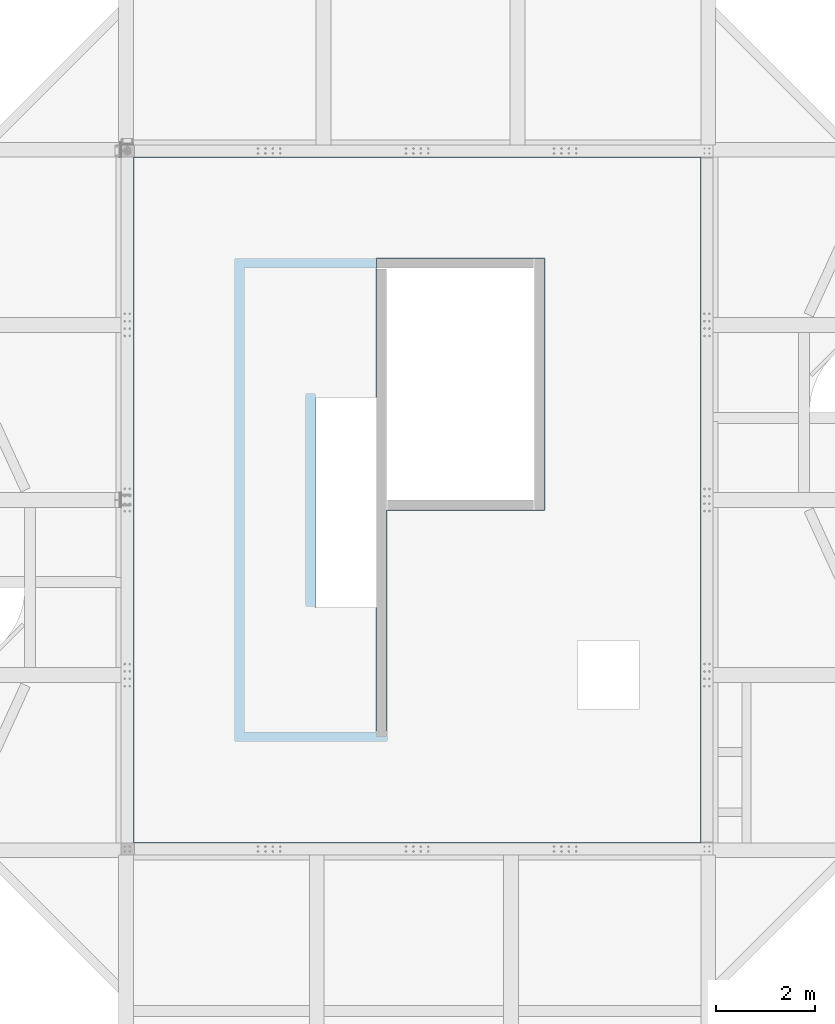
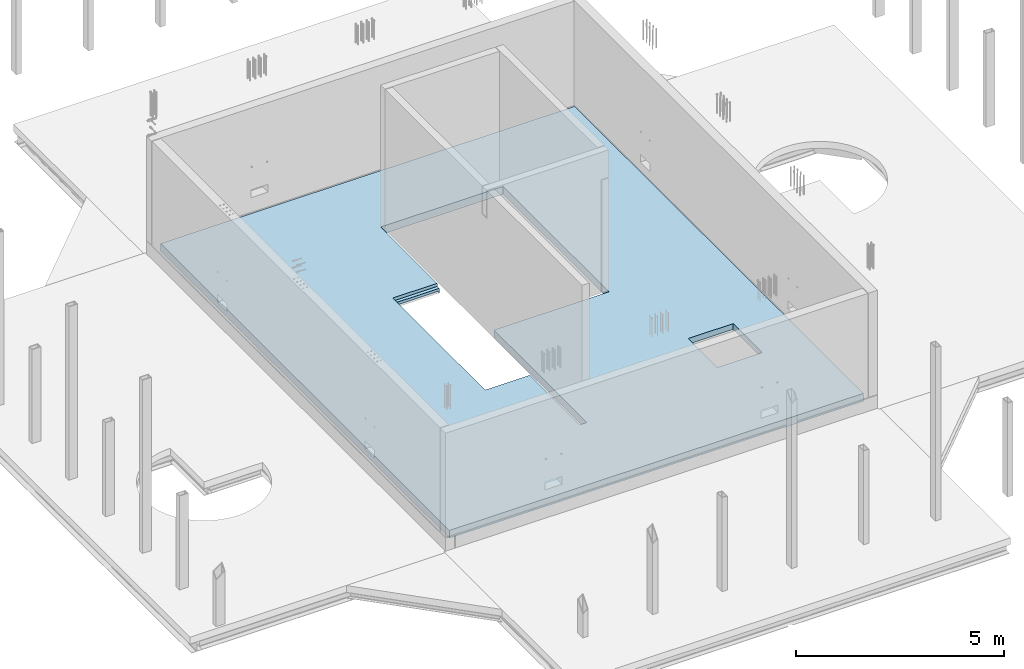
# One storey, part 12 of 16: 1 slab.
"""IFC2X3 building model written with IfcOpenShell, lengths in millimetres."""

from ifc_helpers import new_model, entity, si_unit, converted_unit, derived_unit, direction, frame, origin, place, context, subcontext, project, spatial, faceted_brep, element, save


model = new_model("IFC2X3")

# Units and contexts
model_context = context("Model", 3, precision=0.01, world=origin(), true_north=direction((6.12303176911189e-17, 1.0)))
body_context = subcontext(model_context, "Body", "Model", "MODEL_VIEW")
ifc_project = project(units=[si_unit("LENGTHUNIT", "METRE", prefix="MILLI"), si_unit("AREAUNIT", "SQUARE_METRE"), si_unit("VOLUMEUNIT", "CUBIC_METRE"), converted_unit("PLANEANGLEUNIT", "DEGREE", entity("IfcRatioMeasure", 0.0174532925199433), si_unit("PLANEANGLEUNIT", "RADIAN"), dimensions=[0, 0, 0, 0, 0, 0, 0]), si_unit("MASSUNIT", "GRAM", prefix="KILO"), derived_unit("MASSDENSITYUNIT", [(si_unit("MASSUNIT", "GRAM", prefix="KILO"), 1), (si_unit("LENGTHUNIT", "METRE"), -3)]), si_unit("TIMEUNIT", "SECOND"), si_unit("FREQUENCYUNIT", "HERTZ"), si_unit("THERMODYNAMICTEMPERATUREUNIT", "DEGREE_CELSIUS"), derived_unit("THERMALTRANSMITTANCEUNIT", [(si_unit("MASSUNIT", "GRAM", prefix="KILO"), 1), (si_unit("THERMODYNAMICTEMPERATUREUNIT", "KELVIN"), -1), (si_unit("TIMEUNIT", "SECOND"), -3)]), derived_unit("VOLUMETRICFLOWRATEUNIT", [(si_unit("LENGTHUNIT", "METRE"), 3), (si_unit("TIMEUNIT", "SECOND"), -1)]), si_unit("ELECTRICCURRENTUNIT", "AMPERE"), si_unit("ELECTRICVOLTAGEUNIT", "VOLT"), si_unit("POWERUNIT", "WATT"), si_unit("FORCEUNIT", "NEWTON", prefix="KILO"), si_unit("ILLUMINANCEUNIT", "LUX"), si_unit("LUMINOUSFLUXUNIT", "LUMEN"), si_unit("LUMINOUSINTENSITYUNIT", "CANDELA"), derived_unit("USERDEFINED", [(si_unit("MASSUNIT", "GRAM", prefix="KILO"), -1), (si_unit("LENGTHUNIT", "METRE"), -2), (si_unit("TIMEUNIT", "SECOND"), 3), (si_unit("LUMINOUSFLUXUNIT", "LUMEN"), 1)]), derived_unit("LINEARVELOCITYUNIT", [(si_unit("LENGTHUNIT", "METRE"), 1), (si_unit("TIMEUNIT", "SECOND"), -1)]), si_unit("PRESSUREUNIT", "PASCAL"), derived_unit("USERDEFINED", [(si_unit("LENGTHUNIT", "METRE"), -2), (si_unit("MASSUNIT", "GRAM", prefix="KILO"), 1), (si_unit("TIMEUNIT", "SECOND"), -2)])], contexts=[model_context])

# Site, building, storey
site_placement = place(None, origin())
site = spatial("IfcSite", under=ifc_project, at=site_placement, Name="Default", CompositionType="ELEMENT")
building_placement = place(site_placement, origin())
building = spatial("IfcBuilding", under=site, at=building_placement, Name="niet gebruiken", CompositionType="ELEMENT")
storey_placement = place(building_placement, frame((0.0, 0.0, 183150.0)))
storey = spatial("IfcBuildingStorey", under=building, at=storey_placement, Name="58 achtenvijftigste verdieping", CompositionType="ELEMENT", Elevation=183150.0)

# Slab
slab_placement = place(storey_placement, origin())
element("IfcSlab", 1, at=slab_placement, inside=storey, Name="Floor:NLRS_23.21_FL_vloer=230_gen", ObjectType="Floor:NLRS_23.21_FL_vloer=230_gen", PredefinedType="FLOOR", context=body_context, shape_type="Brep", body=[
    faceted_brep([(147500.0, 24450.0, -230.0), (147500.0, 10550.0, -230.0), (136000.0, 10550.0, -230.0), (136000.0, 24450.0, -230.0), (147490.0, 10560.0, -230.0), (147490.0, 24440.0, -230.0), (136010.0, 24440.0, -230.0), (136010.0, 10560.0, -230.0), (147500.0, 10550.0, 0.0), (147500.0, 24450.0, 0.0), (136000.0, 24450.0, 0.0), (136000.0, 10550.0, 0.0), (140930.0, 22400.0, 0.0), (144330.0, 22400.0, 0.0), (144330.0, 17300.0, 0.0), (141130.0, 17300.0, 0.0), (141130.0, 12820.0, 0.0), (140930.0, 12820.0, 0.0), (140930.0, 15225.0, 0.0), (139690.0, 15225.0, 0.0), (139690.0, 19675.0, 0.0), (140930.0, 19675.0, 0.0), (145000.0, 13250.0, 0.0), (145000.0, 14650.0, 0.0), (146250.0, 14650.0, 0.0), (146250.0, 13250.0, 0.0), (140930.0, 22400.0, -230.0), (144330.0, 22400.0, -230.0), (144330.0, 17300.0, -230.0), (141130.0, 17300.0, -230.0), (141130.0, 12820.0, -230.0), (140930.0, 19580.0, -230.0), (140930.0, 19675.0, -90.0), (140930.0, 19580.0, -90.0), (139690.0, 19580.0, -90.0), (139690.0, 19580.0, -170.0), (140920.0, 19580.0, -170.0), (140920.0, 19580.0, -230.0), (139690.0, 15320.0, -230.0), (139690.0, 19580.0, -230.0), (139690.0, 19675.0, -90.0), (139690.0, 15225.0, -90.0), (139690.0, 15320.0, -90.0), (139690.0, 15320.0, -170.0), (140930.0, 15320.0, -90.0), (140930.0, 15320.0, -230.0), (140920.0, 15320.0, -230.0), (140920.0, 15320.0, -170.0), (145000.0, 13250.0, -170.0), (145000.0, 14650.0, -170.0), (146250.0, 13250.0, -170.0), (146250.0, 14650.0, -170.0), (138240.0, 22210.0, -170.0), (140920.0, 22210.0, -170.0), (139680.0, 19580.0, -170.0), (139680.0, 19650.0, -170.0), (139500.0, 19650.0, -170.0), (139500.0, 15350.0, -170.0), (139680.0, 15350.0, -170.0), (139680.0, 15320.0, -170.0), (140920.0, 12790.0, -170.0), (138240.0, 12790.0, -170.0), (147490.0, 10560.0, -170.0), (147490.0, 24440.0, -170.0), (136010.0, 10560.0, -170.0), (136010.0, 24440.0, -170.0), (138060.0, 22390.0, -170.0), (140920.0, 22390.0, -170.0), (140920.0, 22390.0, -230.0), (138060.0, 22390.0, -230.0), (138060.0, 12610.0, -170.0), (138060.0, 12610.0, -230.0), (141140.0, 12610.0, -170.0), (141140.0, 12610.0, -230.0), (144340.0, 22410.0, -170.0), (144340.0, 17290.0, -170.0), (144340.0, 17290.0, -230.0), (144340.0, 22410.0, -230.0), (141140.0, 17290.0, -170.0), (141140.0, 17290.0, -230.0), (140920.0, 22210.0, -230.0), (140920.0, 12790.0, -230.0), (138240.0, 12790.0, -230.0), (138240.0, 22210.0, -230.0), (139680.0, 19580.0, -230.0), (139500.0, 19650.0, -230.0), (139500.0, 15350.0, -230.0), (139680.0, 15320.0, -230.0), (139680.0, 19650.0, -230.0), (139680.0, 15350.0, -230.0), (140920.0, 22410.0, -170.0), (140920.0, 22410.0, -230.0), (140930.0, 12820.0, -230.0), (140930.0, 15225.0, -90.0)], [[[0, 1, 2, 3], [4, 5, 6, 7]], [[8, 9, 10, 11], [12, 13, 14, 15, 16, 17, 18, 19, 20, 21], [22, 23, 24, 25]], [[1, 0, 9, 8]], [[2, 1, 8, 11]], [[3, 2, 11, 10]], [[0, 3, 10, 9]], [[26, 27, 13, 12]], [[27, 28, 14, 13]], [[29, 30, 16, 15]], [[28, 29, 15, 14]], [[31, 26, 12, 21, 32, 33]], [[31, 33, 34, 35, 36, 37]], [[38, 39, 35, 34, 40, 20, 19, 41, 42, 43]], [[44, 45, 46, 47, 43, 42]], [[23, 22, 48, 49]], [[22, 25, 50, 48]], [[25, 24, 51, 50]], [[24, 23, 49, 51]], [[52, 53, 36, 35, 54, 55, 56, 57, 58, 59, 43, 47, 60, 61]], [[62, 63, 5, 4]], [[64, 62, 4, 7]], [[65, 64, 7, 6]], [[63, 65, 6, 5]], [[66, 67, 68, 69]], [[70, 66, 69, 71]], [[72, 70, 71, 73]], [[74, 75, 76, 77]], [[78, 72, 73, 79]], [[75, 78, 79, 76]], [[36, 53, 80, 37]], [[61, 60, 81, 82]], [[52, 61, 82, 83]], [[53, 52, 83, 80]], [[84, 54, 35, 39]], [[57, 56, 85, 86]], [[59, 87, 38, 43]], [[60, 47, 46, 81]], [[55, 54, 84, 88]], [[56, 55, 88, 85]], [[58, 57, 86, 89]], [[59, 58, 89, 87]], [[90, 74, 77, 91]], [[67, 90, 91, 68]], [[92, 45, 44, 93, 18, 17]], [[30, 92, 17, 16]], [[32, 40, 34, 33]], [[40, 32, 21, 20]], [[42, 41, 93, 44]], [[93, 41, 19, 18]], [[65, 63, 62, 64], [90, 67, 66, 70, 72, 78, 75, 74], [49, 48, 50, 51]], [[69, 68, 91, 77, 76, 79, 73, 71], [27, 26, 31, 37, 80, 83, 82, 81, 46, 45, 92, 30, 29, 28]], [[39, 38, 87, 89, 86, 85, 88, 84]]]),
])

save(model, "model.ifc")
